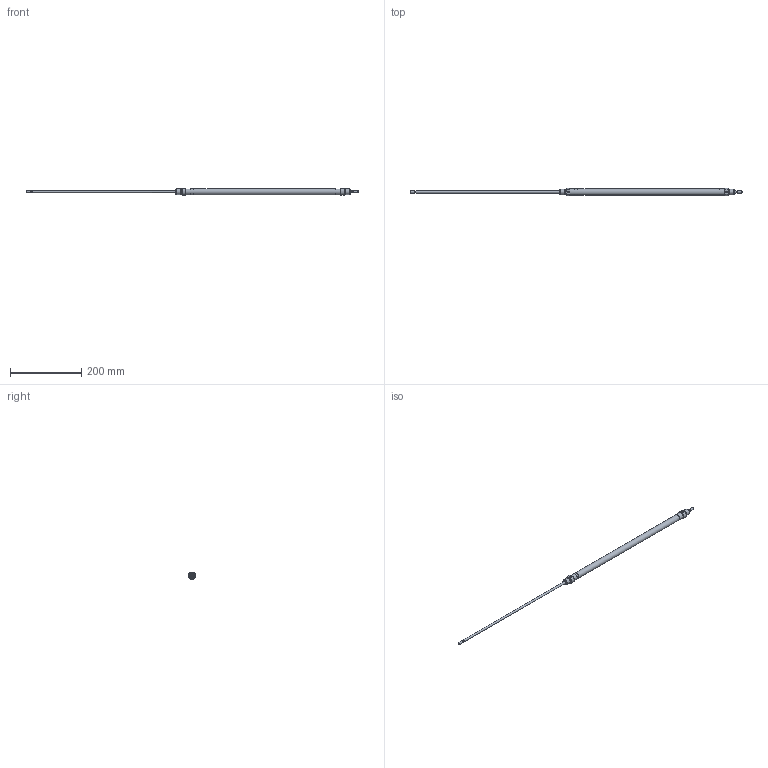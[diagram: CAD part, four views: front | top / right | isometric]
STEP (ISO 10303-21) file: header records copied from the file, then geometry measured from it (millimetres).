
FILE_DESCRIPTION( ( 'STEP AP203' ), '1' );
FILE_NAME( '//expscmdclustefs.cadenas.external/client_exchange/iodir/jobs/output/wkb68412038_no0/STEP/M101-016-0400--__0__2_03.stp', ' ', ( ' ' ), ( ' ' ), 'PSStep 15.0.47', 'PARTsolutions', ' ' );
FILE_SCHEMA( ( 'CONFIG_CONTROL_DESIGN' ) );
Length unit declared in the file: millimetre
Products named in the file (3): M101-016-0400-- [0]; HI_M101-016-0400---[0]-z; HI_M101-016-0400---[0]-k
Assembly tree (2 placements, depth 2):
  M101-016-0400-- [0]
    HI_M101-016-0400---[0]-z
    HI_M101-016-0400---[0]-k
Bounding box: 932 x 20.94 x 19.09 mm (x, y, z)
Volume: 58975 mm3; surface area: 68121.9 mm2
Topology: 2 solids, 2 shells, 67 faces, 135 edges, 82 vertices
Faces by surface type: plane 28, cylinder 23, cone 14, torus 2
Full cylindrical faces by diameter (mm): 4.134 x2, 4.773 x2, 6 x6, 14.16 x4, 16 x6, 17.3 x1
Entity records: 1730 total; most frequent: CARTESIAN_POINT 334, DIRECTION 292, ORIENTED_EDGE 196, AXIS2_PLACEMENT_3D 132, EDGE_LOOP 116, EDGE_CURVE 98, FACE_OUTER_BOUND 90, VERTEX_POINT 78
